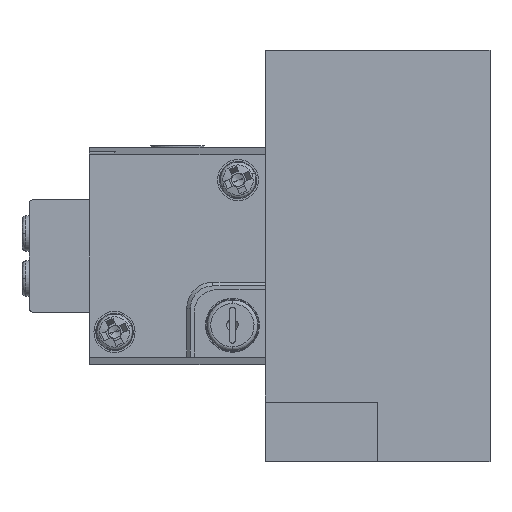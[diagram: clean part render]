
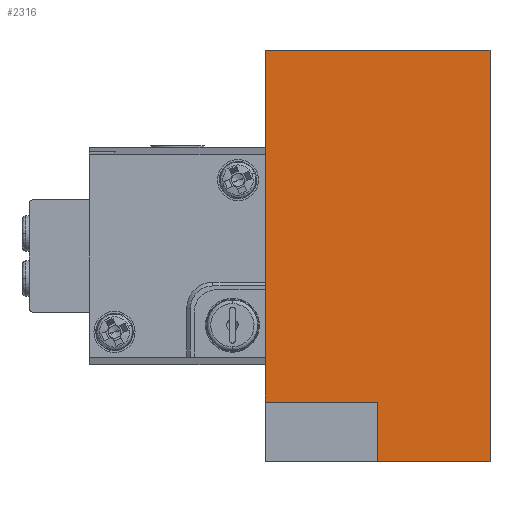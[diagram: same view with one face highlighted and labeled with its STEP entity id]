
A CAD part, left-side view. The second image highlights one B-rep face of the part: STEP entity #2316.
In plain terms, the highlighted planar face has unit normal (-1, 0, 0).
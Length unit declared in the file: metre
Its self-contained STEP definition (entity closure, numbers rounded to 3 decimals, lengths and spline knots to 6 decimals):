
#21 = CARTESIAN_POINT ( 'NONE',  ( -0.034, 0.015, 0. ) ) ;
#69 = VECTOR ( 'NONE', #11079, 1. ) ;
#581 = ORIENTED_EDGE ( 'NONE', *, *, #2750, .F. ) ;
#624 = CARTESIAN_POINT ( 'NONE',  ( -0.034, 0., -0.0275 ) ) ;
#681 = LINE ( 'NONE', #11045, #69 ) ;
#723 = CARTESIAN_POINT ( 'NONE',  ( -0.034, 0., -0.0275 ) ) ;
#1131 = VERTEX_POINT ( 'NONE', #723 ) ;
#1512 = ORIENTED_EDGE ( 'NONE', *, *, #2669, .F. ) ;
#1619 = DIRECTION ( 'NONE',  ( 0., 1., 0. ) ) ;
#1790 = CARTESIAN_POINT ( 'NONE',  ( -0.034, 0.015, -0.0195 ) ) ;
#1997 = VERTEX_POINT ( 'NONE', #9297 ) ;
#2316 = ADVANCED_FACE ( 'NONE', ( #6844 ), #6640, .F. ) ;
#2669 = EDGE_CURVE ( 'NONE', #1131, #5199, #3204, .T. ) ;
#2696 = EDGE_CURVE ( 'NONE', #5199, #3583, #681, .T. ) ;
#2750 = EDGE_CURVE ( 'NONE', #5815, #1131, #8883, .T. ) ;
#2893 = DIRECTION ( 'NONE',  ( 0., 0., -1. ) ) ;
#2918 = EDGE_CURVE ( 'NONE', #8436, #5815, #4622, .T. ) ;
#2933 = VECTOR ( 'NONE', #10253, 1. ) ;
#2953 = EDGE_CURVE ( 'NONE', #8436, #1997, #10851, .T. ) ;
#2961 = EDGE_CURVE ( 'NONE', #1997, #3583, #6691, .T. ) ;
#3180 = CARTESIAN_POINT ( 'NONE',  ( -0.034, 0., -0.0195 ) ) ;
#3204 = LINE ( 'NONE', #5193, #2933 ) ;
#3583 = VERTEX_POINT ( 'NONE', #1790 ) ;
#3587 = ORIENTED_EDGE ( 'NONE', *, *, #2918, .F. ) ;
#4046 = VECTOR ( 'NONE', #6505, 1. ) ;
#4622 = LINE ( 'NONE', #5640, #9285 ) ;
#4698 = ORIENTED_EDGE ( 'NONE', *, *, #2953, .T. ) ;
#5123 = AXIS2_PLACEMENT_3D ( 'NONE', #6360, #6701, #6812 ) ;
#5193 = CARTESIAN_POINT ( 'NONE',  ( -0.034, 0., 0. ) ) ;
#5199 = VERTEX_POINT ( 'NONE', #3180 ) ;
#5640 = CARTESIAN_POINT ( 'NONE',  ( -0.034, -0.015, 0. ) ) ;
#5815 = VERTEX_POINT ( 'NONE', #10553 ) ;
#6240 = CARTESIAN_POINT ( 'NONE',  ( -0.034, -0.015, 0.0275 ) ) ;
#6360 = CARTESIAN_POINT ( 'NONE',  ( -0.034, -0.015, 0.0275 ) ) ;
#6448 = EDGE_LOOP ( 'NONE', ( #8272, #1512, #581, #3587, #4698, #7721 ) ) ;
#6505 = DIRECTION ( 'NONE',  ( 0., 1., 0. ) ) ;
#6570 = VECTOR ( 'NONE', #1619, 1. ) ;
#6640 = PLANE ( 'NONE',  #5123 ) ;
#6691 = LINE ( 'NONE', #21, #10609 ) ;
#6701 = DIRECTION ( 'NONE',  ( 1., 0., 0. ) ) ;
#6812 = DIRECTION ( 'NONE',  ( 0., 0., -1. ) ) ;
#6844 = FACE_OUTER_BOUND ( 'NONE', #6448, .T. ) ;
#7300 = CARTESIAN_POINT ( 'NONE',  ( -0.034, 0., 0.0275 ) ) ;
#7721 = ORIENTED_EDGE ( 'NONE', *, *, #2961, .T. ) ;
#8272 = ORIENTED_EDGE ( 'NONE', *, *, #2696, .F. ) ;
#8436 = VERTEX_POINT ( 'NONE', #6240 ) ;
#8883 = LINE ( 'NONE', #624, #6570 ) ;
#9035 = DIRECTION ( 'NONE',  ( 0., 0., -1. ) ) ;
#9285 = VECTOR ( 'NONE', #9035, 1. ) ;
#9297 = CARTESIAN_POINT ( 'NONE',  ( -0.034, 0.015, 0.0275 ) ) ;
#10253 = DIRECTION ( 'NONE',  ( 0., 0., 1. ) ) ;
#10553 = CARTESIAN_POINT ( 'NONE',  ( -0.034, -0.015, -0.0275 ) ) ;
#10609 = VECTOR ( 'NONE', #2893, 1. ) ;
#10851 = LINE ( 'NONE', #7300, #4046 ) ;
#11045 = CARTESIAN_POINT ( 'NONE',  ( -0.034, 0., -0.0195 ) ) ;
#11079 = DIRECTION ( 'NONE',  ( 0., 1., 0. ) ) ;
